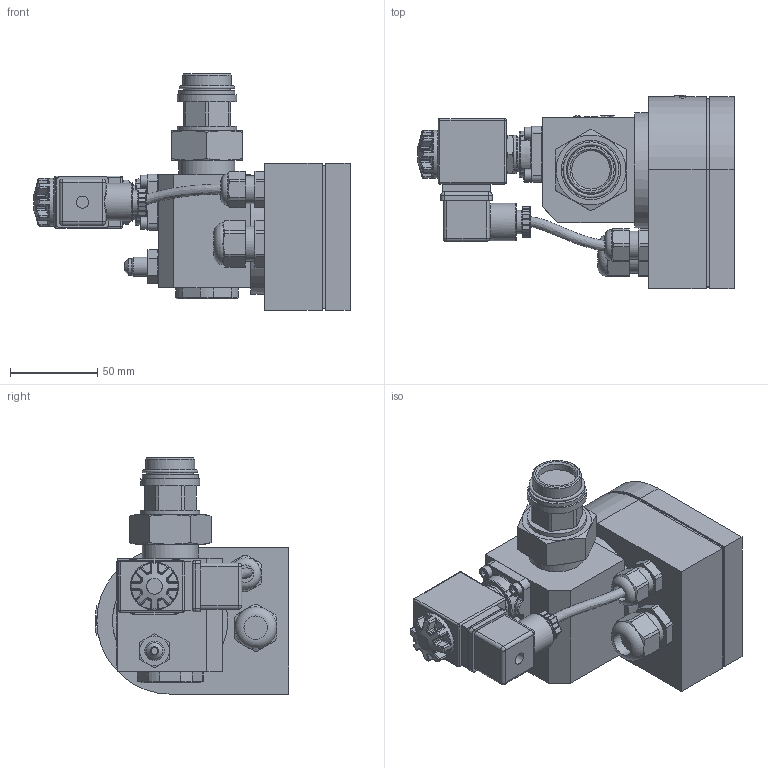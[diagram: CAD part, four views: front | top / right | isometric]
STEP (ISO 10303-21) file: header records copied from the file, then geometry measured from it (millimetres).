
FILE_DESCRIPTION(/* description */ (''),/* implementation_level */ '2;1');
FILE_NAME(/* name */ 'P:\ORE_ERM\ERM5-OC\ERM5-OC.stp',/* time_stamp */ '2015-07-28T13:19:48+02:00',/* author */ ('neufeld'),/* organization */ (''),/* preprocessor_version */ 'ST-DEVELOPER v15.2',/* originating_system */ 'Autodesk Inventor 2014',/* authorisation */ '');
FILE_SCHEMA (('AUTOMOTIVE_DESIGN { 1 0 10303 214 3 1 1 }'));
Products named in the file (1): ERM5-OC_AG-Kunde
Bounding box: 181.11 x 111 x 135.31 mm (x, y, z)
Volume: 819262.2 mm3; surface area: 83904.2 mm2
Topology: 2 solids, 2 shells, 1964 faces, 4983 edges, 3171 vertices
Faces by surface type: plane 921, bspline 573, cylinder 243, torus 113, cone 62, sphere 52
Full cylindrical faces by diameter (mm): 4 x1, 7 x5, 9.1 x1, 9.4 x1, 10 x1, 10.5 x1, 11.112 x1, 13.5 x2, 16 x1, 20 x2, 20.5 x1, 21.5 x1, 22 x2, 24.2 x1, 26.6 x1, 27.5 x1, 28 x1, 28.2 x1, 28.81 x1, 32 x1, 32.15 x1, 34 x2, 66 x1
Entity records: 72256 total; most frequent: CARTESIAN_POINT 28259, ORIENTED_EDGE 9800, DIRECTION 7263, EDGE_CURVE 4894, VERTEX_POINT 3132, LINE 2783, VECTOR 2783, AXIS2_PLACEMENT_3D 2240
